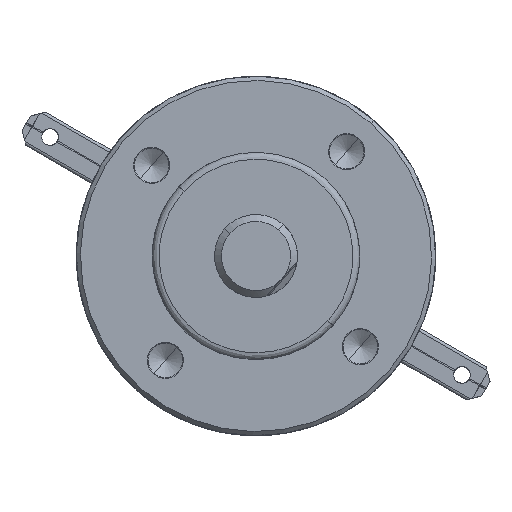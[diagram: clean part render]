
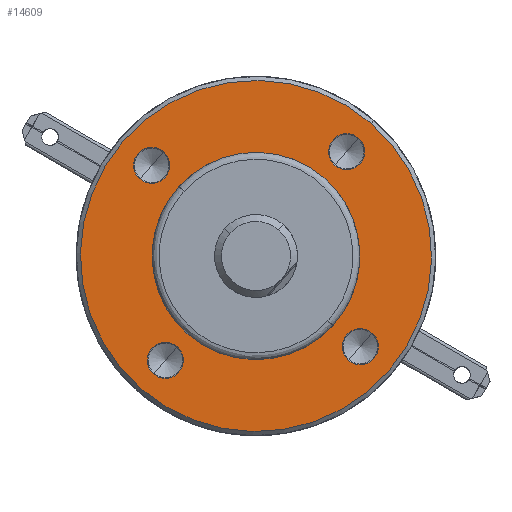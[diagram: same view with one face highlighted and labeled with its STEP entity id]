
A CAD part, left-side view. The second image highlights one B-rep face of the part: STEP entity #14609.
In plain terms, the highlighted planar face has unit normal (-1, 0, 0).
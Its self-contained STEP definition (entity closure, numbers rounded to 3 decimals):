
#46 = VERTEX_POINT ( 'NONE', #5758 ) ;
#197 = DIRECTION ( 'NONE',  ( 0., 0., 1. ) ) ;
#298 = CARTESIAN_POINT ( 'NONE',  ( 0., 0., -10. ) ) ;
#483 = VERTEX_POINT ( 'NONE', #3452 ) ;
#494 = CARTESIAN_POINT ( 'NONE',  ( 0., 0., 10. ) ) ;
#540 = CIRCLE ( 'NONE', #12036, 1.3 ) ;
#627 = CIRCLE ( 'NONE', #2456, 1.3 ) ;
#655 = EDGE_CURVE ( 'NONE', #2154, #14560, #12256, .T. ) ;
#785 = EDGE_CURVE ( 'NONE', #1935, #15014, #13786, .T. ) ;
#849 = CARTESIAN_POINT ( 'NONE',  ( 0., 0., 0. ) ) ;
#852 = DIRECTION ( 'NONE',  ( 0., 0., 1. ) ) ;
#1331 = DIRECTION ( 'NONE',  ( 0., 0., 1. ) ) ;
#1487 = EDGE_LOOP ( 'NONE', ( #12843, #17767 ) ) ;
#1553 = CARTESIAN_POINT ( 'NONE',  ( 0., 0., 0. ) ) ;
#1616 = EDGE_CURVE ( 'NONE', #483, #17847, #13981, .T. ) ;
#1706 = FACE_BOUND ( 'NONE', #1487, .T. ) ;
#1791 = PLANE ( 'NONE',  #9139 ) ;
#1935 = VERTEX_POINT ( 'NONE', #10154 ) ;
#2154 = VERTEX_POINT ( 'NONE', #3667 ) ;
#2246 = ORIENTED_EDGE ( 'NONE', *, *, #17797, .F. ) ;
#2257 = DIRECTION ( 'NONE',  ( 0., 0., -1. ) ) ;
#2367 = CARTESIAN_POINT ( 'NONE',  ( 0., -10., -1.3 ) ) ;
#2456 = AXIS2_PLACEMENT_3D ( 'NONE', #17510, #9242, #852 ) ;
#2672 = ORIENTED_EDGE ( 'NONE', *, *, #15016, .F. ) ;
#2687 = AXIS2_PLACEMENT_3D ( 'NONE', #494, #17279, #17228 ) ;
#2931 = CARTESIAN_POINT ( 'NONE',  ( 0., 0., 0. ) ) ;
#2947 = DIRECTION ( 'NONE',  ( 0., 0., -1. ) ) ;
#3004 = CIRCLE ( 'NONE', #8472, 12.7 ) ;
#3267 = DIRECTION ( 'NONE',  ( 0., 0., 1. ) ) ;
#3348 = CIRCLE ( 'NONE', #4458, 7.5 ) ;
#3452 = CARTESIAN_POINT ( 'NONE',  ( 0., 0., -7.5 ) ) ;
#3557 = CIRCLE ( 'NONE', #5817, 1.3 ) ;
#3667 = CARTESIAN_POINT ( 'NONE',  ( 0., 0., -8.7 ) ) ;
#3984 = EDGE_CURVE ( 'NONE', #17847, #483, #3348, .T. ) ;
#4199 = CARTESIAN_POINT ( 'NONE',  ( 0., 0., 12.7 ) ) ;
#4331 = DIRECTION ( 'NONE',  ( 0., 0., -1. ) ) ;
#4458 = AXIS2_PLACEMENT_3D ( 'NONE', #1553, #11297, #2947 ) ;
#4554 = ORIENTED_EDGE ( 'NONE', *, *, #15923, .F. ) ;
#4595 = CARTESIAN_POINT ( 'NONE',  ( 0., 0., 0. ) ) ;
#4644 = AXIS2_PLACEMENT_3D ( 'NONE', #5061, #14761, #6496 ) ;
#5061 = CARTESIAN_POINT ( 'NONE',  ( 0., 0., -10. ) ) ;
#5062 = ORIENTED_EDGE ( 'NONE', *, *, #5523, .F. ) ;
#5441 = FACE_BOUND ( 'NONE', #11687, .T. ) ;
#5523 = EDGE_CURVE ( 'NONE', #8730, #15637, #12025, .T. ) ;
#5624 = DIRECTION ( 'NONE',  ( -1., 0., 0. ) ) ;
#5758 = CARTESIAN_POINT ( 'NONE',  ( 0., 10., -1.3 ) ) ;
#5817 = AXIS2_PLACEMENT_3D ( 'NONE', #13924, #5624, #15306 ) ;
#5897 = FACE_BOUND ( 'NONE', #16661, .T. ) ;
#6322 = FACE_BOUND ( 'NONE', #11892, .T. ) ;
#6496 = DIRECTION ( 'NONE',  ( 0., 0., 1. ) ) ;
#7208 = DIRECTION ( 'NONE',  ( -1., 0., 0. ) ) ;
#7252 = DIRECTION ( 'NONE',  ( 1., 0., 0. ) ) ;
#7633 = ORIENTED_EDGE ( 'NONE', *, *, #13880, .F. ) ;
#7796 = EDGE_LOOP ( 'NONE', ( #7633, #2672 ) ) ;
#8241 = ORIENTED_EDGE ( 'NONE', *, *, #8665, .F. ) ;
#8472 = AXIS2_PLACEMENT_3D ( 'NONE', #15512, #7252, #16902 ) ;
#8495 = CARTESIAN_POINT ( 'NONE',  ( 0., 0., 7.5 ) ) ;
#8586 = DIRECTION ( 'NONE',  ( -1., 0., 0. ) ) ;
#8665 = EDGE_CURVE ( 'NONE', #14560, #2154, #12862, .T. ) ;
#8723 = CARTESIAN_POINT ( 'NONE',  ( 0., 0., -11.3 ) ) ;
#8730 = VERTEX_POINT ( 'NONE', #2367 ) ;
#8828 = DIRECTION ( 'NONE',  ( 0., 0., -1. ) ) ;
#8838 = AXIS2_PLACEMENT_3D ( 'NONE', #15470, #7208, #16852 ) ;
#8855 = EDGE_LOOP ( 'NONE', ( #10574, #10367 ) ) ;
#9060 = CARTESIAN_POINT ( 'NONE',  ( 0., 0., -12.7 ) ) ;
#9138 = FACE_BOUND ( 'NONE', #8855, .T. ) ;
#9139 = AXIS2_PLACEMENT_3D ( 'NONE', #4595, #17092, #8828 ) ;
#9242 = DIRECTION ( 'NONE',  ( -1., 0., 0. ) ) ;
#9692 = DIRECTION ( 'NONE',  ( -1., 0., 0. ) ) ;
#10154 = CARTESIAN_POINT ( 'NONE',  ( 0., 0., 8.7 ) ) ;
#10367 = ORIENTED_EDGE ( 'NONE', *, *, #785, .F. ) ;
#10574 = ORIENTED_EDGE ( 'NONE', *, *, #16856, .F. ) ;
#10617 = DIRECTION ( 'NONE',  ( -1., 0., 0. ) ) ;
#11297 = DIRECTION ( 'NONE',  ( -1., 0., 0. ) ) ;
#11439 = AXIS2_PLACEMENT_3D ( 'NONE', #298, #15539, #3267 ) ;
#11687 = EDGE_LOOP ( 'NONE', ( #16013, #8241 ) ) ;
#11719 = CARTESIAN_POINT ( 'NONE',  ( 0., -10., 1.3 ) ) ;
#11892 = EDGE_LOOP ( 'NONE', ( #4554, #5062 ) ) ;
#11952 = VERTEX_POINT ( 'NONE', #9060 ) ;
#12025 = CIRCLE ( 'NONE', #8838, 1.3 ) ;
#12036 = AXIS2_PLACEMENT_3D ( 'NONE', #17958, #9692, #1331 ) ;
#12043 = VERTEX_POINT ( 'NONE', #17578 ) ;
#12256 = CIRCLE ( 'NONE', #11439, 1.3 ) ;
#12666 = DIRECTION ( 'NONE',  ( 1., 0., 0. ) ) ;
#12732 = CARTESIAN_POINT ( 'NONE',  ( 0., 0., 11.3 ) ) ;
#12843 = ORIENTED_EDGE ( 'NONE', *, *, #1616, .F. ) ;
#12862 = CIRCLE ( 'NONE', #4644, 1.3 ) ;
#13274 = EDGE_CURVE ( 'NONE', #46, #12043, #627, .T. ) ;
#13377 = CIRCLE ( 'NONE', #14597, 1.3 ) ;
#13786 = CIRCLE ( 'NONE', #2687, 1.3 ) ;
#13880 = EDGE_CURVE ( 'NONE', #11952, #17810, #16516, .T. ) ;
#13924 = CARTESIAN_POINT ( 'NONE',  ( 0., 10., 0. ) ) ;
#13981 = CIRCLE ( 'NONE', #17460, 7.5 ) ;
#14560 = VERTEX_POINT ( 'NONE', #8723 ) ;
#14597 = AXIS2_PLACEMENT_3D ( 'NONE', #16842, #8586, #197 ) ;
#14609 = ADVANCED_FACE ( 'NONE', ( #6322, #9138, #5897, #5441, #1706, #16053 ), #1791, .F. ) ;
#14761 = DIRECTION ( 'NONE',  ( -1., 0., 0. ) ) ;
#14805 = AXIS2_PLACEMENT_3D ( 'NONE', #2931, #12666, #4331 ) ;
#15014 = VERTEX_POINT ( 'NONE', #12732 ) ;
#15016 = EDGE_CURVE ( 'NONE', #17810, #11952, #3004, .T. ) ;
#15306 = DIRECTION ( 'NONE',  ( 0., 0., 1. ) ) ;
#15470 = CARTESIAN_POINT ( 'NONE',  ( 0., -10., 0. ) ) ;
#15512 = CARTESIAN_POINT ( 'NONE',  ( 0., 0., 0. ) ) ;
#15539 = DIRECTION ( 'NONE',  ( -1., 0., 0. ) ) ;
#15637 = VERTEX_POINT ( 'NONE', #11719 ) ;
#15923 = EDGE_CURVE ( 'NONE', #15637, #8730, #540, .T. ) ;
#16013 = ORIENTED_EDGE ( 'NONE', *, *, #655, .F. ) ;
#16053 = FACE_OUTER_BOUND ( 'NONE', #7796, .T. ) ;
#16516 = CIRCLE ( 'NONE', #14805, 12.7 ) ;
#16661 = EDGE_LOOP ( 'NONE', ( #2246, #16676 ) ) ;
#16676 = ORIENTED_EDGE ( 'NONE', *, *, #13274, .F. ) ;
#16842 = CARTESIAN_POINT ( 'NONE',  ( 0., 0., 10. ) ) ;
#16852 = DIRECTION ( 'NONE',  ( 0., 0., 1. ) ) ;
#16856 = EDGE_CURVE ( 'NONE', #15014, #1935, #13377, .T. ) ;
#16902 = DIRECTION ( 'NONE',  ( 0., 0., -1. ) ) ;
#17092 = DIRECTION ( 'NONE',  ( 1., 0., 0. ) ) ;
#17228 = DIRECTION ( 'NONE',  ( 0., 0., 1. ) ) ;
#17279 = DIRECTION ( 'NONE',  ( -1., 0., 0. ) ) ;
#17460 = AXIS2_PLACEMENT_3D ( 'NONE', #849, #10617, #2257 ) ;
#17510 = CARTESIAN_POINT ( 'NONE',  ( 0., 10., 0. ) ) ;
#17578 = CARTESIAN_POINT ( 'NONE',  ( 0., 10., 1.3 ) ) ;
#17767 = ORIENTED_EDGE ( 'NONE', *, *, #3984, .F. ) ;
#17797 = EDGE_CURVE ( 'NONE', #12043, #46, #3557, .T. ) ;
#17810 = VERTEX_POINT ( 'NONE', #4199 ) ;
#17847 = VERTEX_POINT ( 'NONE', #8495 ) ;
#17958 = CARTESIAN_POINT ( 'NONE',  ( 0., -10., 0. ) ) ;
